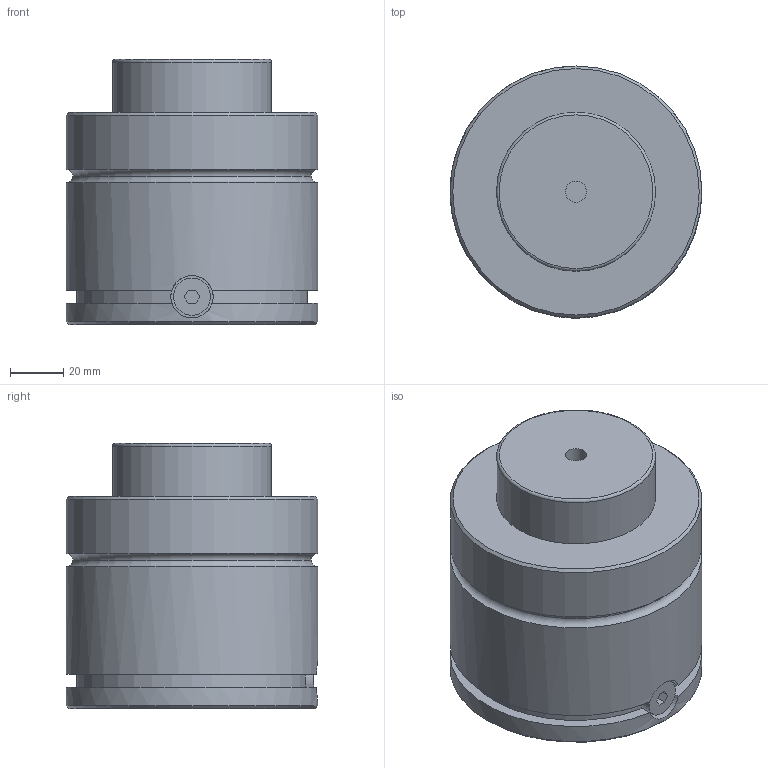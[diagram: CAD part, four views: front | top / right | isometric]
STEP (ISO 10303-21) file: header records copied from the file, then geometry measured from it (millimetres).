
FILE_DESCRIPTION(('FreeCAD Model'),'2;1');
FILE_NAME('Open CASCADE Shape Model','2024-11-12T09:48:10',('Author'),( ''),'Open CASCADE STEP processor 7.6','FreeCAD','Unknown');
FILE_SCHEMA(('AUTOMOTIVE_DESIGN { 1 0 10303 214 1 1 1 1 }'));
Length unit declared in the file: millimetre
Products named in the file (7): Unnamed; Part001; MICRO 95x018; Part015; Chamfer001; Part016; Cut
Assembly tree (7 placements, depth 3):
  Unnamed
    Part001
      MICRO 95x018
    Part015
      Chamfer001  x2
    Part016
      Cut
Bounding box: 95 x 95 x 100 mm (x, y, z)
Surface area: 94241.7 mm2
Topology: 4 solids, 4 shells, 68 faces, 134 edges, 85 vertices
Faces by surface type: plane 31, cylinder 26, cone 6, torus 5
Full cylindrical faces by diameter (mm): 8 x9, 16 x2, 60 x1, 95 x6
Entity records: 1532 total; most frequent: CARTESIAN_POINT 418, DIRECTION 227, ORIENTED_EDGE 176, AXIS2_PLACEMENT_3D 93, EDGE_CURVE 88, VERTEX_POINT 56, FACE_BOUND 52, EDGE_LOOP 52
